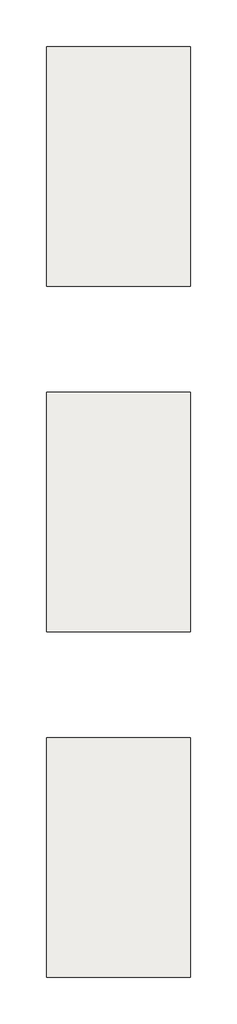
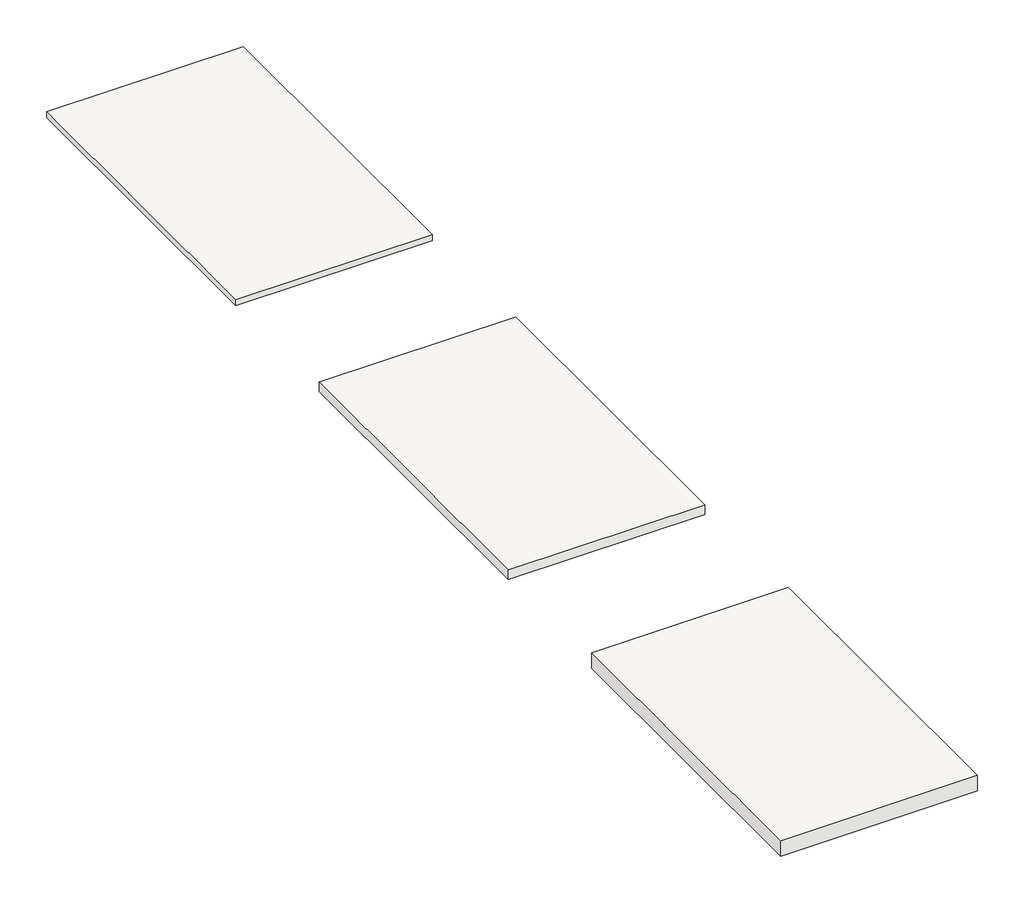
# One storey: 3 slabs.
"""IFC4 building model written with IfcOpenShell, lengths in millimetres."""

from ifc_helpers import new_model, si_unit, frame, origin, place, context, project, spatial, polyline, outline, extrude, element, save

model = new_model("IFC4")

# Units and contexts
model_context = context("Model", 3, world=origin())
ifc_project = project(units=[si_unit("LENGTHUNIT", "METRE", prefix="MILLI")], contexts=[model_context])

# Site, building, storey
site = spatial("IfcSite", under=ifc_project)
building = spatial("IfcBuilding", under=site)
storey = spatial("IfcBuildingStorey", under=building, Name="Референтни ниво", Elevation=0.0)

# Slabs
placement = place(None, origin())
element("IfcSlab", 1, ObjectType="Knauf Insulation - NaturBoard POD EXTRA - 20 mm - 20 x 1000 x 600 mm", at=placement, inside=storey, context=model_context, shape_type="SweptSolid", body=[
    extrude(outline(polyline([(-244606.4890323, 183315.8878718), (-244606.4890323, 182315.8878718), (-245206.4890323, 182315.8878718), (-245206.4890323, 183315.8878718), (-244606.4890323, 183315.8878718)])), frame((0.0, 0.0, -20.0), z_axis=(0.0, 0.0, 1.0), x_axis=(1.0, 0.0, 0.0)), (0.0, 0.0, 1.0), 20.0),
])
element("IfcSlab", 2, ObjectType="Knauf Insulation - NaturBoard POD EXTRA - 30 mm - 30 x 1000 x 600 mm", at=placement, inside=storey, context=model_context, shape_type="SweptSolid", body=[
    extrude(outline(polyline([(-244606.4890323, 181875.8878718), (-244606.4890323, 180875.8878718), (-245206.4890323, 180875.8878718), (-245206.4890323, 181875.8878718), (-244606.4890323, 181875.8878718)])), frame((0.0, 0.0, -30.0), z_axis=(0.0, 0.0, 1.0), x_axis=(1.0, 0.0, 0.0)), (0.0, 0.0, 1.0), 30.0),
])
element("IfcSlab", 3, ObjectType="Knauf Insulation - NaturBoard POD EXTRA - 50 mm - 50 x 1000 x 600 mm", at=placement, inside=storey, context=model_context, shape_type="SweptSolid", body=[
    extrude(outline(polyline([(-244606.4890323, 180435.8878718), (-244606.4890323, 179435.8878718), (-245206.4890323, 179435.8878718), (-245206.4890323, 180435.8878718), (-244606.4890323, 180435.8878718)])), frame((0.0, 0.0, -50.0), z_axis=(0.0, 0.0, 1.0), x_axis=(1.0, 0.0, 0.0)), (0.0, 0.0, 1.0), 50.0),
])

save(model, "model.ifc")
